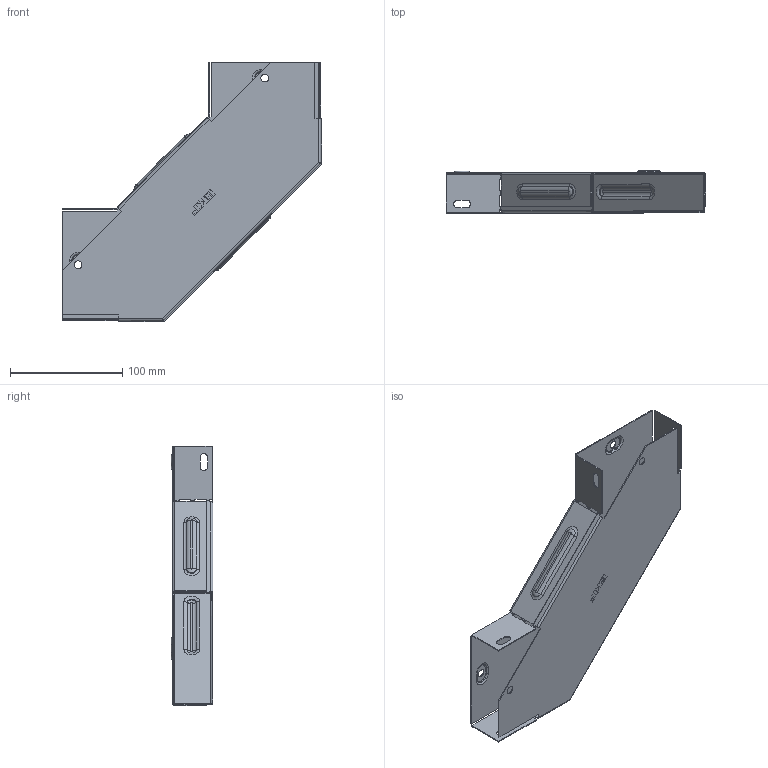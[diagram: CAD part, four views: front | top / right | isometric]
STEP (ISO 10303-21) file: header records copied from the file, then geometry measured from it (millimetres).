
FILE_DESCRIPTION (( 'STEP AP214' ), '1' );
FILE_NAME ('g9035100_捘.STEP', '2019-06-10T09:50:33', ( '砐錪賧瘔蠈錪 Windows' ), ( '' ), 'SwSTEP 2.0', 'SolidWorks 2018', '' );
FILE_SCHEMA (( 'AUTOMOTIVE_DESIGN' ));
Length unit declared in the file: millimetre
Products named in the file (1): g9035100_捘
Bounding box: 230.8 x 37.3 x 230.8 mm (x, y, z)
Volume: 68337.7 mm3; surface area: 173161.7 mm2
Topology: 2 solids, 2 shells, 449 faces, 1207 edges, 778 vertices
Faces by surface type: plane 268, cylinder 107, torus 48, bspline 26
Entity records: 15288 total; most frequent: CARTESIAN_POINT 3911, ORIENTED_EDGE 2414, DIRECTION 2261, EDGE_CURVE 1207, LINE 873, VECTOR 873, VERTEX_POINT 778, AXIS2_PLACEMENT_3D 694
